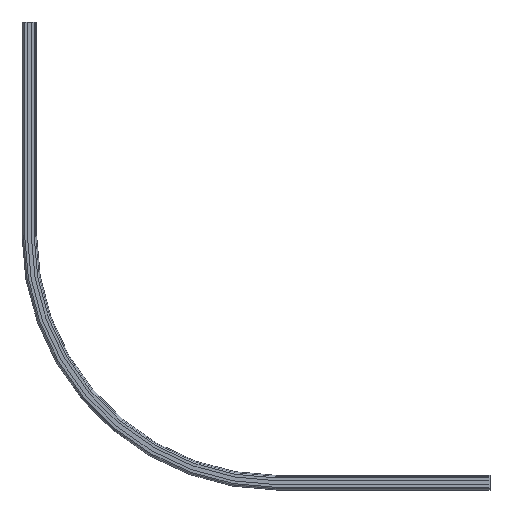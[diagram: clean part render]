
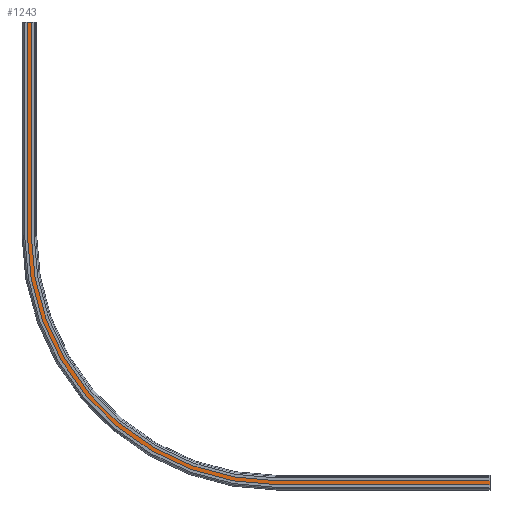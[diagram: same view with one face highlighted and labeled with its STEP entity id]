
A CAD part, front view. The second image highlights one B-rep face of the part: STEP entity #1243.
In plain terms, the highlighted planar face has unit normal (0, -1, 0).
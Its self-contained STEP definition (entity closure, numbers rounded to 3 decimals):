
#62=CIRCLE('',#1327,510.);
#66=CIRCLE('',#1332,490.);
#187=FACE_OUTER_BOUND('',#261,.T.);
#261=EDGE_LOOP('',(#1001,#1002,#1003,#1004,#1005,#1006,#1007,#1008));
#293=LINE('',#1855,#401);
#295=LINE('',#1865,#403);
#353=LINE('',#2105,#461);
#354=LINE('',#2109,#462);
#355=LINE('',#2110,#463);
#356=LINE('',#2111,#464);
#401=VECTOR('',#1443,430.);
#403=VECTOR('',#1453,430.);
#461=VECTOR('',#1721,430.);
#462=VECTOR('',#1726,430.);
#463=VECTOR('',#1727,20.);
#464=VECTOR('',#1728,20.);
#509=VERTEX_POINT('',#1852);
#510=VERTEX_POINT('',#1854);
#511=VERTEX_POINT('',#1858);
#514=VERTEX_POINT('',#1863);
#562=VERTEX_POINT('',#1999);
#564=VERTEX_POINT('',#2005);
#591=VERTEX_POINT('',#2104);
#592=VERTEX_POINT('',#2108);
#624=EDGE_CURVE('',#510,#509,#293,.T.);
#629=EDGE_CURVE('',#514,#511,#295,.T.);
#694=EDGE_CURVE('',#562,#510,#62,.T.);
#698=EDGE_CURVE('',#564,#514,#66,.T.);
#747=EDGE_CURVE('',#591,#562,#353,.T.);
#749=EDGE_CURVE('',#592,#564,#354,.T.);
#750=EDGE_CURVE('',#591,#592,#355,.T.);
#751=EDGE_CURVE('',#509,#511,#356,.T.);
#1001=ORIENTED_EDGE('',*,*,#749,.F.);
#1002=ORIENTED_EDGE('',*,*,#750,.F.);
#1003=ORIENTED_EDGE('',*,*,#747,.T.);
#1004=ORIENTED_EDGE('',*,*,#694,.T.);
#1005=ORIENTED_EDGE('',*,*,#624,.T.);
#1006=ORIENTED_EDGE('',*,*,#751,.T.);
#1007=ORIENTED_EDGE('',*,*,#629,.F.);
#1008=ORIENTED_EDGE('',*,*,#698,.F.);
#1178=PLANE('',#1386);
#1243=ADVANCED_FACE('',(#187),#1178,.T.);
#1327=AXIS2_PLACEMENT_3D('',#2000,#1587,#1588);
#1332=AXIS2_PLACEMENT_3D('',#2007,#1597,#1598);
#1386=AXIS2_PLACEMENT_3D('',#2107,#1724,#1725);
#1443=DIRECTION('',(1.,0.,0.));
#1453=DIRECTION('',(1.,0.,0.));
#1587=DIRECTION('center_axis',(0.,-1.,0.));
#1588=DIRECTION('ref_axis',(0.,0.,1.));
#1597=DIRECTION('center_axis',(0.,-1.,0.));
#1598=DIRECTION('ref_axis',(0.,0.,1.));
#1721=DIRECTION('',(0.,0.,-1.));
#1724=DIRECTION('center_axis',(0.,-1.,0.));
#1725=DIRECTION('ref_axis',(0.,0.,-1.));
#1726=DIRECTION('',(0.,0.,-1.));
#1727=DIRECTION('',(1.,0.,0.));
#1728=DIRECTION('',(0.,0.,1.));
#1852=CARTESIAN_POINT('',(930.,24.,-940.));
#1854=CARTESIAN_POINT('',(500.,24.,-940.));
#1855=CARTESIAN_POINT('',(500.,24.,-940.));
#1858=CARTESIAN_POINT('',(930.,24.,-920.));
#1863=CARTESIAN_POINT('',(500.,24.,-920.));
#1865=CARTESIAN_POINT('',(500.,24.,-920.));
#1999=CARTESIAN_POINT('',(-10.,24.,-430.));
#2000=CARTESIAN_POINT('Origin',(500.,24.,-430.));
#2005=CARTESIAN_POINT('',(10.,24.,-430.));
#2007=CARTESIAN_POINT('Origin',(500.,24.,-430.));
#2104=CARTESIAN_POINT('',(-10.,24.,0.));
#2105=CARTESIAN_POINT('',(-10.,24.,0.));
#2107=CARTESIAN_POINT('Origin',(-10.,24.,0.));
#2108=CARTESIAN_POINT('',(10.,24.,0.));
#2109=CARTESIAN_POINT('',(10.,24.,0.));
#2110=CARTESIAN_POINT('',(-10.,24.,0.));
#2111=CARTESIAN_POINT('',(930.,24.,-940.));
